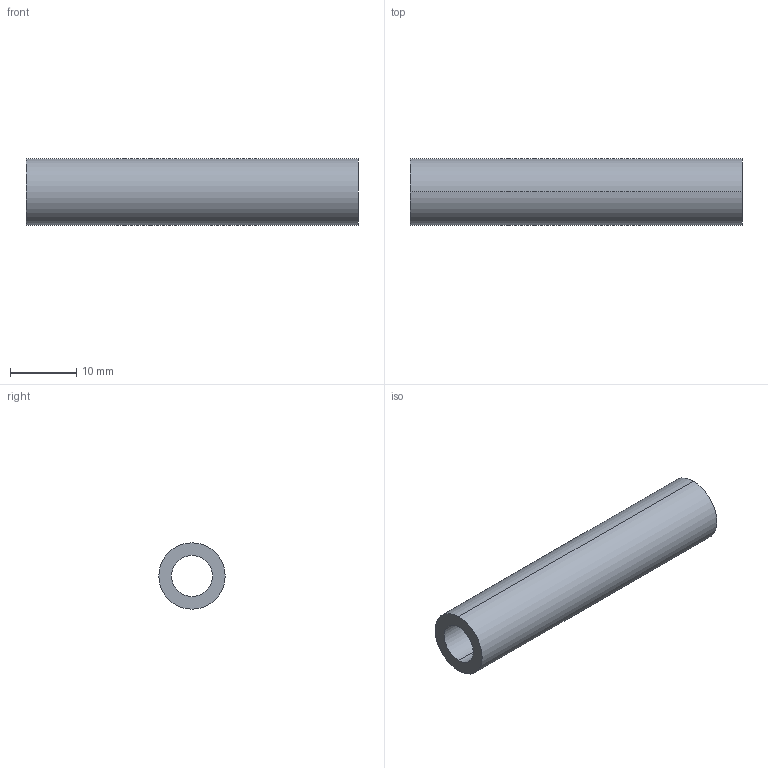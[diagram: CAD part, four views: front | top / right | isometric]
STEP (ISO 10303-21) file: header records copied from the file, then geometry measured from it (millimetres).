
FILE_DESCRIPTION (( 'STEP AP203' ), '1' );
FILE_NAME ('021 Douille de guidage.STEP', '2021-10-27T18:24:58', ( '' ), ( '' ), 'SwSTEP 2.0', 'SolidWorks 2019', '' );
FILE_SCHEMA (( 'CONFIG_CONTROL_DESIGN' ));
Length unit declared in the file: millimetre
Products named in the file (1): 021 Douille de guidage
Bounding box: 50 x 10 x 10 mm (x, y, z)
Volume: 2417.5 mm3; surface area: 2641.4 mm2
Topology: 1 solids, 1 shells, 6 faces, 12 edges, 8 vertices
Faces by surface type: cylinder 4, plane 2
Entity records: 245 total; most frequent: DIRECTION 34, CARTESIAN_POINT 27, ORIENTED_EDGE 24, AXIS2_PLACEMENT_3D 15, EDGE_CURVE 12, VERTEX_POINT 8, CIRCLE 8, EDGE_LOOP 8
